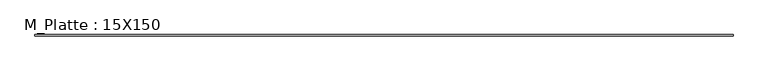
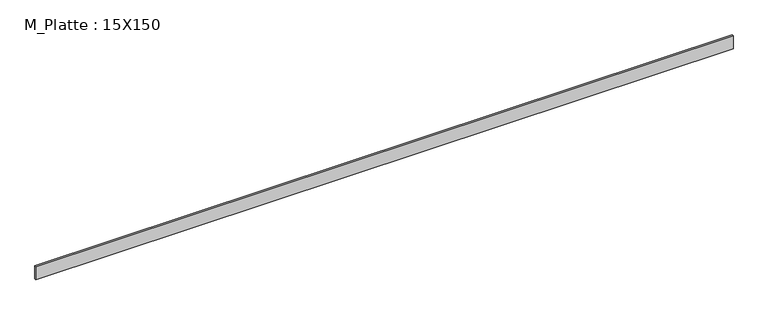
"""IFC4 building model written with IfcOpenShell, lengths in millimetres: beam geometry, M_Platte : 15X150."""

from ifc_helpers import new_model, si_unit, frame, origin, place, context, project, spatial, polyline, outline, extrude, source, transform, mapped, element, save


def m_platte_15x150_c4686393(model_context):
    return source(origin(), model_context, "Body", "SweptSolid", [
        extrude(outline(polyline([(3693.0520062, 7.5), (3693.0520062, -7.5), (-3869.9102502, -7.5), (-3869.9102502, 7.5), (3693.0520062, 7.5)])), frame((0.0, 0.0, -75.0), z_axis=(0.0, 0.0, 1.0), x_axis=(1.0, 0.0, 0.0)), (0.0, 0.0, 1.0), 150.0),
    ])


if __name__ == "__main__":
    model = new_model("IFC4")
    model_context = context("Model", 3, world=origin())
    ifc_project = project(units=[si_unit("LENGTHUNIT", "METRE", prefix="MILLI")], contexts=[model_context])
    site = spatial("IfcSite", under=ifc_project)
    building = spatial("IfcBuilding", under=site)
    placement = place(None, origin())
    m_platte_15x150_shape = m_platte_15x150_c4686393(model_context)
    element("IfcBeam", 1, ObjectType="M_Platte : 15X150", at=placement, inside=building, context=model_context, shape_type="MappedRepresentation", body=[
        mapped(m_platte_15x150_shape, transform((0.0, 0.0, 0.0), x_axis=(1.0, 0.0, 0.0), y_axis=(0.0, 1.0, 0.0), z_axis=(0.0, 0.0, 1.0))),
    ])
    save(model, "model.ifc")
